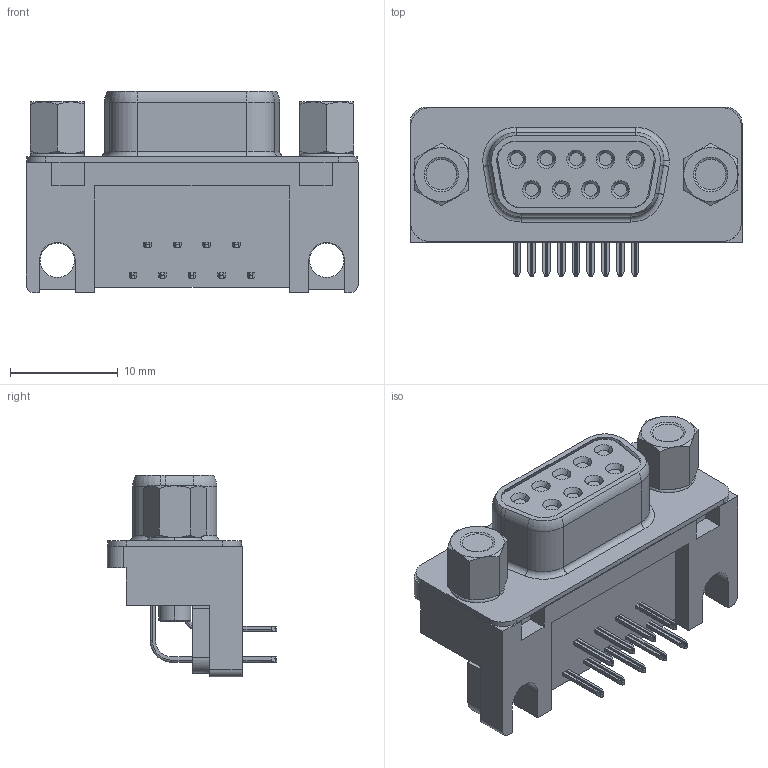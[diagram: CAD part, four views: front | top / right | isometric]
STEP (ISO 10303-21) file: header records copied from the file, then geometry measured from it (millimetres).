
FILE_DESCRIPTION (( 'STEP AP203' ), '1' );
FILE_NAME ('17LE-13090-27(D4CD)-FA.STEP', '2022-01-31T04:16:20', ( '' ), ( '' ), 'SwSTEP 2.0', 'SolidWorks 2018', '' );
FILE_SCHEMA (( 'CONFIG_CONTROL_DESIGN' ));
Length unit declared in the file: millimetre
Products named in the file (1): 17LE-13090-27(D4CD)-FA
Bounding box: 30.8 x 15.7 x 18.67 mm (x, y, z)
Volume: 3273.4 mm3; surface area: 3561.9 mm2
Topology: 1 solids, 5 shells, 702 faces, 1814 edges, 1149 vertices
Faces by surface type: plane 328, cylinder 249, torus 86, cone 39
Entity records: 21886 total; most frequent: CARTESIAN_POINT 4282, DIRECTION 3781, ORIENTED_EDGE 3628, EDGE_CURVE 1814, AXIS2_PLACEMENT_3D 1356, VERTEX_POINT 1149, LINE 1069, VECTOR 1069
